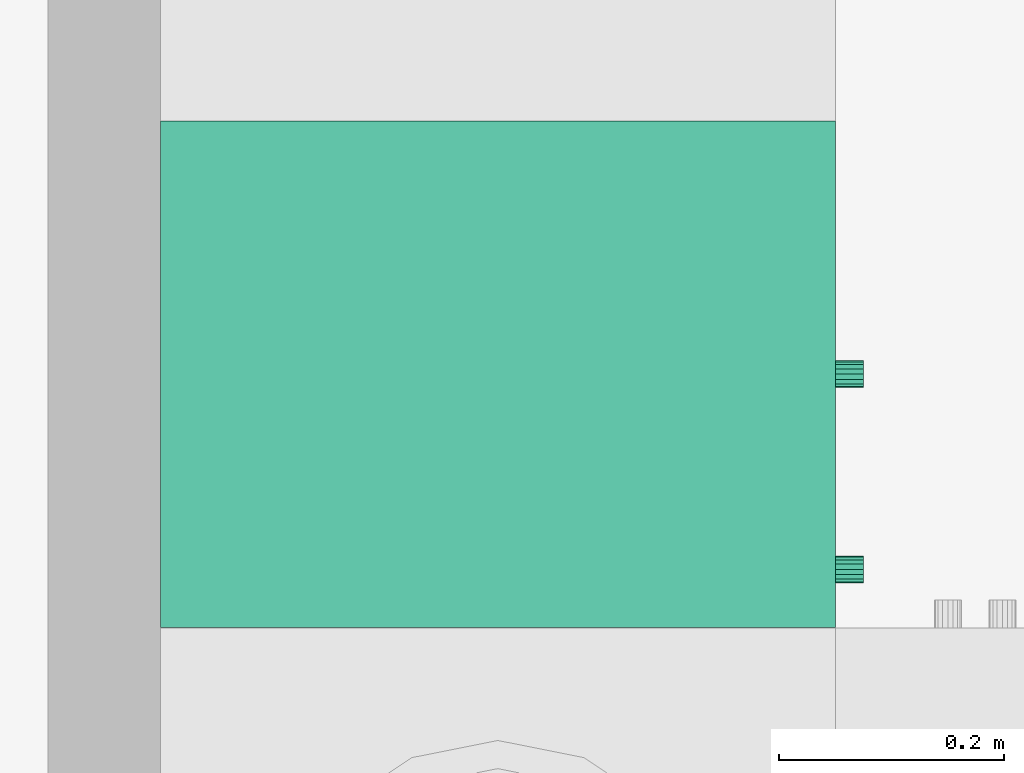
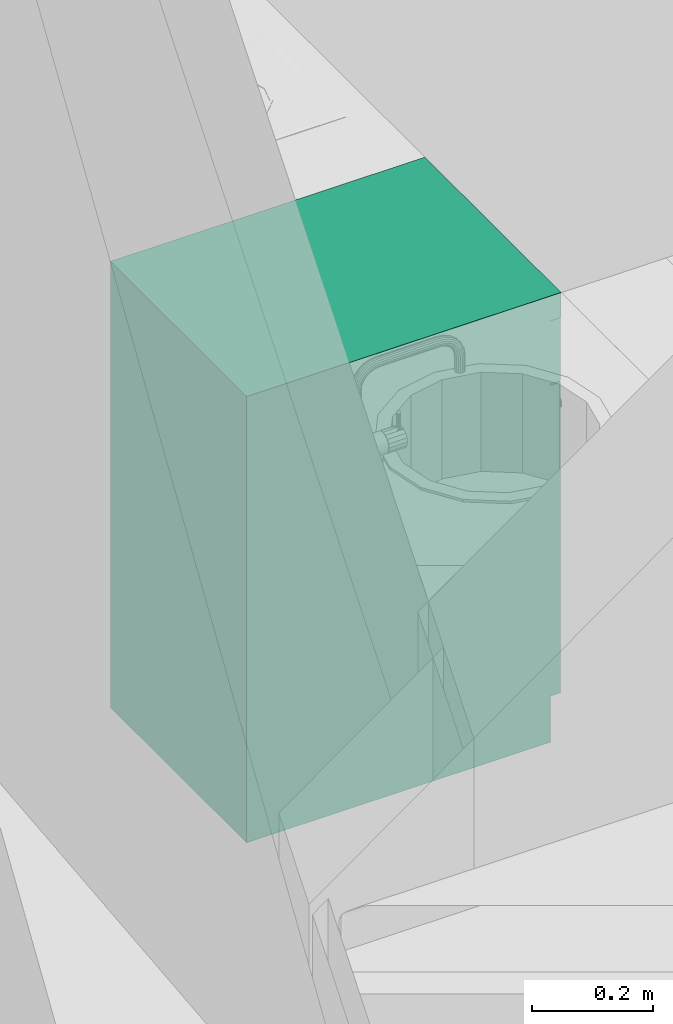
# One storey, part 49 of 165: 1 flow terminal.
"""IFC2X3 building model written with IfcOpenShell, lengths in millimetres."""

import ifcopenshell
import ifcopenshell.guid

model = None  # the IFC model being written
_history = None  # IfcOwnerHistory: only IFC2X3 demands one
_inside = {}  # id of a spatial element -> (the spatial element, [elements in it])
_under = {}  # id of a project, library or spatial element -> (it, [spatial elements below it])
_declared = {}  # id of a project -> (the project, [libraries it declares])
_typed = {}  # id of a type object -> (the type object, [elements of that type])
_made_of = {}  # id of a material, layer set ... -> (it, [elements and type objects made of it])


def new_model(schema):
    """Start an empty IFC model of exactly this schema.

    Asked for "IFC4X3", IfcOpenShell would pick the latest addendum, in which some entities
    have other attributes; the version numbers below select the first issue.
    IFC2X3 requires an IfcOwnerHistory on every rooted entity: one is made here for all.
    """
    global model, _history
    if schema == "IFC4X3":
        model = ifcopenshell.file(schema_version=(4, 3, 0, 0))
    else:
        model = ifcopenshell.file(schema=schema)
    _inside.clear()
    _under.clear()
    _declared.clear()
    _typed.clear()
    _made_of.clear()
    _history = None
    if model.schema == "IFC2X3":
        org = make("IfcOrganization", Name="unknown")
        user = make(
            "IfcPersonAndOrganization",
            ThePerson=make("IfcPerson", FamilyName="unknown"),
            TheOrganization=org,
        )
        app = make(
            "IfcApplication",
            ApplicationDeveloper=org,
            Version="unknown",
            ApplicationFullName="unknown",
            ApplicationIdentifier="unknown",
        )
        _history = make(
            "IfcOwnerHistory",
            OwningUser=user,
            OwningApplication=app,
            ChangeAction="ADDED",
            CreationDate=0,
        )
    return model


def make(cls, **values):
    """One entity of the class cls with the attributes given. An attribute that is None is left unset."""
    return model.create_entity(
        cls, **{name: value for name, value in values.items() if value is not None}
    )


def entity(cls, *values):
    """Any entity or typed value of the class cls, its attributes in the order of the schema. None: left unset."""
    e = model.create_entity(cls)
    for i, value in enumerate(values):
        if value is not None:
            e[i] = value
    return e


def rooted(cls, **values):
    """An entity with a GlobalId (a new one), such as an element, a storey or a relation."""
    return make(cls, GlobalId=ifcopenshell.guid.new(), OwnerHistory=_history, **values)


def si_unit(unit_type, name, prefix=None):
    """IfcSIUnit, for example si_unit("LENGTHUNIT", "METRE", prefix="MILLI")."""
    return make("IfcSIUnit", UnitType=unit_type, Prefix=prefix, Name=name)


def converted_unit(unit_type, name, factor, base, dimensions=None, offset=None):
    """IfcConversionBasedUnit, such as the inch: factor (a typed value) times the base unit."""
    return make(
        "IfcConversionBasedUnit"
        if offset is None
        else "IfcConversionBasedUnitWithOffset",
        ConversionOffset=offset,
        Dimensions=None
        if dimensions is None
        else entity("IfcDimensionalExponents", *dimensions),
        UnitType=unit_type,
        Name=name,
        ConversionFactor=make(
            "IfcMeasureWithUnit", ValueComponent=factor, UnitComponent=base
        ),
    )


def money_unit(currency):
    """IfcMonetaryUnit."""
    return make("IfcMonetaryUnit", Currency=currency)


def assignment(units):
    """IfcUnitAssignment: the units of a project."""
    return None if units is None else make("IfcUnitAssignment", Units=units)


def point(xyz):
    """IfcCartesianPoint."""
    return None if xyz is None else make("IfcCartesianPoint", Coordinates=xyz)


def direction(xyz):
    """IfcDirection."""
    return None if xyz is None else make("IfcDirection", DirectionRatios=xyz)


def frame(location, z_axis=None, x_axis=None):
    """IfcAxis2Placement3D, a coordinate frame: its origin and axes. An axis left out is left unset."""
    return make(
        "IfcAxis2Placement3D",
        Location=point(location),
        Axis=direction(z_axis),
        RefDirection=direction(x_axis),
    )


def origin_with_axes():
    """The frame at (0, 0, 0) with the z axis (0, 0, 1) and the x axis (1, 0, 0) written out."""
    return frame((0.0, 0.0, 0.0), z_axis=(0.0, 0.0, 1.0), x_axis=(1.0, 0.0, 0.0))


def place(relative_to, where):
    """IfcLocalPlacement: puts the frame where relative to a parent placement (None: the world)."""
    return make(
        "IfcLocalPlacement", PlacementRelTo=relative_to, RelativePlacement=where
    )


def context(
    kind, dimensions, precision=None, world=None, true_north=None, identifier=None
):
    """IfcGeometricRepresentationContext, for example the 3D "Model" context."""
    return make(
        "IfcGeometricRepresentationContext",
        ContextIdentifier=identifier,
        ContextType=kind,
        CoordinateSpaceDimension=dimensions,
        Precision=precision,
        WorldCoordinateSystem=world,
        TrueNorth=true_north,
    )


def subcontext(parent, identifier, kind, view, scale=None):
    """IfcGeometricRepresentationSubContext, for example "Body" below "Model"."""
    return make(
        "IfcGeometricRepresentationSubContext",
        ContextIdentifier=identifier,
        ContextType=kind,
        ParentContext=parent,
        TargetScale=scale,
        TargetView=view,
    )


def project(units=None, contexts=None):
    """IfcProject with its units and contexts."""
    return rooted(
        "IfcProject",
        Name="project",
        RepresentationContexts=contexts,
        UnitsInContext=assignment(units),
    )


def spatial(cls, under=None, at=None, **own):
    """A site, building, storey or space (cls), placed at a placement, below another one or the project."""
    s = rooted(cls, ObjectPlacement=at, **own)
    if under is not None:
        _under.setdefault(under.id(), (under, []))[1].append(s)
    return s


def faces_of(points, faces, orient=None, outer=None):
    """IfcFace entities. A face is a list of loops; a loop is a list of indices into points, from 0.

    orient and outer hold one flag for each loop. By default every Orientation is true, the
    first loop of a face is its IfcFaceOuterBound and the others are IfcFaceBound.
    """
    made = []
    for i, loops in enumerate(faces):
        bounds = []
        for j, loop in enumerate(loops):
            is_outer = j == 0 if outer is None else outer[i][j]
            bounds.append(
                make(
                    "IfcFaceOuterBound" if is_outer else "IfcFaceBound",
                    Bound=make("IfcPolyLoop", Polygon=[points[k] for k in loop]),
                    Orientation=True if orient is None else orient[i][j],
                )
            )
        made.append(make("IfcFace", Bounds=bounds))
    return made


def faceted_brep(points, faces, orient=None, outer=None, voids=None):
    """IfcFacetedBrep: a solid bounded by flat faces; with voids (closed shells), ...WithVoids."""
    shared = [point(p) for p in points]
    hull = make("IfcClosedShell", CfsFaces=faces_of(shared, faces, orient, outer))
    if voids is None:
        return make("IfcFacetedBrep", Outer=hull)
    return make(
        "IfcFacetedBrepWithVoids",
        Outer=hull,
        Voids=[
            make(cls, CfsFaces=faces_of(shared, fs, o, b)) for cls, fs, o, b in voids
        ],
    )


def shape(context_of_items, identifier, shape_type, items):
    """IfcShapeRepresentation: the items that make up one representation, for example the "Body"."""
    return make(
        "IfcShapeRepresentation",
        ContextOfItems=context_of_items,
        RepresentationIdentifier=identifier,
        RepresentationType=shape_type,
        Items=items,
    )


def material(Name=None, Category=None):
    """IfcMaterial."""
    return make("IfcMaterial", Name=Name, Category=Category)


def material_list(materials):
    """IfcMaterialList."""
    return make("IfcMaterialList", Materials=materials)


def made_of(thing, what):
    """Note that an element or type object is made of a material, layer set ...; save() writes the relation."""
    if what is not None:
        _made_of.setdefault(what.id(), (what, []))[1].append(thing)
    return thing


def type_object(cls, material=None, **own):
    """A type object (cls), such as IfcWallType, which elements share."""
    return made_of(rooted(cls, **own), material)


def element(
    cls,
    number,
    at=None,
    inside=None,
    cuts=None,
    type_object=None,
    material=None,
    context=None,
    identifier="Body",
    shape_type=None,
    held_by="IfcProductDefinitionShape",
    body=None,
    shapes=None,
    **own,
):
    """One element of the class cls, such as IfcWall. Its Tag is "e" and its number.

    at: its placement. inside: the storey or other place that contains it. cuts: it is an
    opening in that element (IfcRelVoidsElement). A single representation is given by context,
    identifier, shape_type and body (its items); several are given by shapes. held_by: the class
    of the entity that holds the representations. save() writes the other relations.
    """
    e = rooted(cls, Tag="e%d" % number, ObjectPlacement=at, **own)
    if body is not None:
        shapes = [shape(context, identifier, shape_type, body)]
    if shapes is not None:
        e.Representation = make(held_by, Representations=shapes)
    if inside is not None:
        _inside.setdefault(inside.id(), (inside, []))[1].append(e)
    if cuts is not None:
        rooted(
            "IfcRelVoidsElement", RelatingBuildingElement=cuts, RelatedOpeningElement=e
        )
    if type_object is not None:
        _typed.setdefault(type_object.id(), (type_object, []))[1].append(e)
    return made_of(e, material)


def aggregate(whole, parts):
    """IfcRelAggregates: a whole, such as a stair, and the parts it consists of."""
    return rooted("IfcRelAggregates", RelatingObject=whole, RelatedObjects=parts)


def save(model, path):
    """Write the relations noted so far, then the file.

    IfcRelAggregates (storeys below a building ...), IfcRelContainedInSpatialStructure (elements
    in a storey), IfcRelDefinesByType, IfcRelAssociatesMaterial and IfcRelDeclares: one each for
    every whole, place, type object, material and project.
    """
    for whole, parts in _under.values():
        aggregate(whole, parts)
    for where, things in _inside.values():
        rooted(
            "IfcRelContainedInSpatialStructure",
            RelatedElements=things,
            RelatingStructure=where,
        )
    for kind, things in _typed.values():
        rooted("IfcRelDefinesByType", RelatedObjects=things, RelatingType=kind)
    for what, things in _made_of.values():
        rooted("IfcRelAssociatesMaterial", RelatedObjects=things, RelatingMaterial=what)
    for by, libraries in _declared.values():
        rooted("IfcRelDeclares", RelatingContext=by, RelatedDefinitions=libraries)
    model.write(path)


model = new_model("IFC2X3")

# Units and contexts
model_context = context("Model", 3, precision=1e-05, world=origin_with_axes(), true_north=direction((0.0, 1.0)))
body_context = subcontext(model_context, "Body", "Model", "MODEL_VIEW")
ifc_project = project(units=[si_unit("LENGTHUNIT", "METRE", prefix="MILLI"), si_unit("AREAUNIT", "SQUARE_METRE"), si_unit("VOLUMEUNIT", "CUBIC_METRE"), converted_unit("PLANEANGLEUNIT", "DEGREE", entity("IfcPlaneAngleMeasure", 0.0174532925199), si_unit("PLANEANGLEUNIT", "RADIAN"), dimensions=[0, 0, 0, 0, 0, 0, 0]), si_unit("SOLIDANGLEUNIT", "STERADIAN"), money_unit("USD"), converted_unit("TIMEUNIT", "Year", entity("IfcTimeMeasure", 31556926.0), si_unit("TIMEUNIT", "SECOND"), dimensions=[0, 0, 0, 0, 0, 0, 0]), si_unit("MASSUNIT", "GRAM"), si_unit("THERMODYNAMICTEMPERATUREUNIT", "DEGREE_CELSIUS"), si_unit("LUMINOUSINTENSITYUNIT", "LUMEN")], contexts=[model_context])

# Site, building, storey
site_placement = place(None, origin_with_axes())
site = spatial("IfcSite", under=ifc_project, at=site_placement, Name="Site", CompositionType="ELEMENT")
building_placement = place(site_placement, origin_with_axes())
building = spatial("IfcBuilding", under=site, at=building_placement, Name="Building", CompositionType="ELEMENT")
storey_placement = place(building_placement, frame((0.0, 0.0, 6300.0), z_axis=(0.0, 0.0, 1.0), x_axis=(1.0, 0.0, 0.0)))
storey = spatial("IfcBuildingStorey", under=building, at=storey_placement, Name="4KORRUS", CompositionType="ELEMENT", Elevation=6300.0)

# Flow terminal
ifc_material = material(Name="Background")
ifc_material_list = material_list([ifc_material])
sanitary_terminal_type = type_object("IfcSanitaryTerminalType", Name="Cabinet Base Single Door 19", PredefinedType="SINK")
flow_terminal_placement = place(storey_placement, frame((-53008.4921105, -14687.3375674, 0.0), z_axis=(0.0, 0.0, 1.0), x_axis=(0.0, 1.0, 0.0)))
element("IfcFlowTerminal", 1, at=flow_terminal_placement, inside=storey, type_object=sanitary_terminal_type, material=ifc_material_list, Name="FU - 007", context=body_context, shape_type="Brep", body=[
    faceted_brep([(-20.0, 20.0, 710.0), (-20.0, 20.0, 730.0), (-430.0, 20.0, 730.0), (-430.0, 20.0, 710.0), (-20.0, 580.0, 710.0), (-20.0, 580.0, 730.0), (-430.0, 580.0, 730.0), (-430.0, 580.0, 710.0)], [[[0, 1, 2, 3]], [[4, 5, 1, 0]], [[1, 5, 6, 2]], [[3, 2, 6, 7]], [[0, 3, 7, 4]], [[7, 6, 5, 4]]]),
    faceted_brep([(0.0, 20.0, 0.0), (0.0, 20.0, 90.0), (-450.0, 20.0, 90.0), (-450.0, 20.0, 0.0), (0.0, 600.0, 0.0), (0.0, 600.0, 90.0), (-450.0, 600.0, 90.0), (-450.0, 600.0, 0.0)], [[[0, 1, 2, 3]], [[4, 5, 1, 0]], [[1, 5, 6, 2]], [[3, 2, 6, 7]], [[0, 3, 7, 4]], [[7, 6, 5, 4]]]),
    faceted_brep([(0.0, 20.0, 830.0), (0.0, 20.0, 850.0), (-20.0, 20.0, 850.0), (-20.0, 20.0, 830.0), (0.0, 600.0, 830.0), (0.0, 600.0, 850.0), (-20.0, 600.0, 850.0), (-430.0, 600.0, 850.0), (-450.0, 600.0, 850.0), (-450.0, 20.0, 850.0), (-430.0, 20.0, 850.0), (-430.0, 20.0, 830.0), (-450.0, 20.0, 830.0), (-450.0, 600.0, 830.0), (-430.0, 600.0, 830.0), (-20.0, 600.0, 830.0)], [[[0, 1, 2, 3]], [[4, 5, 1, 0]], [[1, 5, 6, 7, 8, 9, 10, 2]], [[3, 2, 10, 11]], [[0, 3, 11, 12, 13, 14, 15, 4]], [[15, 6, 5, 4]], [[14, 7, 6, 15]], [[13, 8, 7, 14]], [[12, 9, 8, 13]], [[11, 10, 9, 12]]]),
    faceted_brep([(0.0, 20.0, 90.0), (0.0, 20.0, 110.0), (-20.0, 20.0, 110.0), (-20.0, 20.0, 90.0), (0.0, 600.0, 90.0), (0.0, 600.0, 110.0), (-20.0, 600.0, 110.0), (-430.0, 600.0, 110.0), (-450.0, 600.0, 110.0), (-450.0, 20.0, 110.0), (-430.0, 20.0, 110.0), (-430.0, 20.0, 90.0), (-450.0, 20.0, 90.0), (-450.0, 600.0, 90.0), (-430.0, 600.0, 90.0), (-20.0, 600.0, 90.0)], [[[0, 1, 2, 3]], [[4, 5, 1, 0]], [[1, 5, 6, 7, 8, 9, 10, 2]], [[3, 2, 10, 11]], [[0, 3, 11, 12, 13, 14, 15, 4]], [[15, 6, 5, 4]], [[14, 7, 6, 15]], [[13, 8, 7, 14]], [[12, 9, 8, 13]], [[11, 10, 9, 12]]]),
    faceted_brep([(0.0, 20.0, 110.0), (0.0, 20.0, 830.0), (-20.0, 20.0, 830.0), (-20.0, 20.0, 110.0), (0.0, 600.0, 110.0), (0.0, 600.0, 830.0), (-450.0, 600.0, 830.0), (-450.0, 20.0, 830.0), (-430.0, 20.0, 830.0), (-430.0, 580.0, 830.0), (-20.0, 580.0, 830.0), (-20.0, 580.0, 110.0), (-430.0, 580.0, 110.0), (-430.0, 20.0, 110.0), (-450.0, 20.0, 110.0), (-450.0, 600.0, 110.0)], [[[0, 1, 2, 3]], [[4, 5, 1, 0]], [[1, 5, 6, 7, 8, 9, 10, 2]], [[3, 2, 10, 11]], [[0, 3, 11, 12, 13, 14, 15, 4]], [[15, 6, 5, 4]], [[14, 7, 6, 15]], [[13, 8, 7, 14]], [[12, 9, 8, 13]], [[11, 10, 9, 12]]]),
    faceted_brep([(-430.0, 20.0, 385.0), (-430.0, 20.0, 405.0), (-430.0, 580.0, 405.0), (-430.0, 580.0, 385.0), (-20.0, 20.0, 385.0), (-20.0, 20.0, 405.0), (-20.0, 580.0, 405.0), (-20.0, 580.0, 385.0)], [[[0, 1, 2, 3]], [[4, 5, 1, 0]], [[1, 5, 6, 2]], [[3, 2, 6, 7]], [[0, 3, 7, 4]], [[7, 6, 5, 4]]]),
    faceted_brep([(0.0, 0.0, 850.0), (0.0, 0.0, 900.0), (-450.0, 0.0, 900.0), (-450.0, 0.0, 850.0), (0.0, 600.0, 850.0), (0.0, 600.0, 900.0), (-450.0, 600.0, 900.0), (-450.0, 600.0, 850.0)], [[[0, 1, 2, 3]], [[4, 5, 1, 0]], [[1, 5, 6, 2]], [[3, 2, 6, 7]], [[0, 3, 7, 4]], [[7, 6, 5, 4]]]),
    faceted_brep([(-1.5, 20.0, 721.5), (-1.5, 0.0, 721.5), (-448.5, 0.0, 721.5), (-448.5, 20.0, 721.5), (-1.5, 20.0, 848.5), (-1.5, 0.0, 848.5), (-448.5, 0.0, 848.5), (-448.5, 20.0, 848.5)], [[[0, 1, 2, 3]], [[4, 5, 1, 0]], [[1, 5, 6, 2]], [[3, 2, 6, 7]], [[0, 3, 7, 4]], [[7, 6, 5, 4]]]),
    faceted_brep([(-220.408, 0.0, 773.913), (-225.0, 0.0, 773.0), (-229.592, 0.0, 773.913), (-233.485, 0.0, 776.515), (-236.087, 0.0, 780.408), (-237.0, 0.0, 785.0), (-236.087, 0.0, 789.592), (-233.485, 0.0, 793.485), (-229.592, 0.0, 796.087), (-225.0, 0.0, 797.0), (-220.408, 0.0, 796.087), (-216.515, 0.0, 793.485), (-213.913, 0.0, 789.592), (-213.0, 0.0, 785.0), (-213.913, 0.0, 780.408), (-216.515, 0.0, 776.515), (-220.408, -25.0, 773.913), (-225.0, -25.0, 773.0), (-229.592, -25.0, 773.913), (-233.485, -25.0, 776.515), (-236.087, -25.0, 780.408), (-237.0, -25.0, 785.0), (-236.087, -25.0, 789.592), (-233.485, -25.0, 793.485), (-229.592, -25.0, 796.087), (-225.0, -25.0, 797.0), (-220.408, -25.0, 796.087), (-216.515, -25.0, 793.485), (-213.913, -25.0, 789.592), (-213.0, -25.0, 785.0), (-213.913, -25.0, 780.408), (-216.515, -25.0, 776.515)], [[[0, 1, 2, 3, 4, 5, 6, 7, 8, 9, 10, 11, 12, 13, 14, 15]], [[0, 16, 17, 1]], [[1, 17, 18, 2]], [[2, 18, 19, 3]], [[3, 19, 20, 4]], [[4, 20, 21, 5]], [[5, 21, 22, 6]], [[6, 22, 23, 7]], [[7, 23, 24, 8]], [[8, 24, 25, 9]], [[9, 25, 26, 10]], [[10, 26, 27, 11]], [[11, 27, 28, 12]], [[12, 28, 29, 13]], [[13, 29, 30, 14]], [[14, 30, 31, 15]], [[15, 31, 16, 0]], [[16, 31, 30, 29, 28, 27, 26, 25, 24, 23, 22, 21, 20, 19, 18, 17]]]),
    faceted_brep([(-1.5, 20.0, 91.5), (-1.5, 0.0, 91.5), (-448.5, 0.0, 91.5), (-448.5, 20.0, 91.5), (-1.5, 20.0, 718.5), (-1.5, 0.0, 718.5), (-448.5, 0.0, 718.5), (-448.5, 20.0, 718.5)], [[[0, 1, 2, 3]], [[4, 5, 1, 0]], [[1, 5, 6, 2]], [[3, 2, 6, 7]], [[0, 3, 7, 4]], [[7, 6, 5, 4]]]),
    faceted_brep([(-409.587, 0.0, 636.908), (-410.5, 0.0, 641.5), (-409.587, 0.0, 646.092), (-406.985, 0.0, 649.985), (-403.092, 0.0, 652.587), (-398.5, 0.0, 653.5), (-393.908, 0.0, 652.587), (-390.015, 0.0, 649.985), (-387.413, 0.0, 646.092), (-386.5, 0.0, 641.5), (-387.413, 0.0, 636.908), (-390.015, 0.0, 633.015), (-393.908, 0.0, 630.413), (-398.5, 0.0, 629.5), (-403.092, 0.0, 630.413), (-406.985, 0.0, 633.015), (-409.587, -25.0, 636.908), (-410.5, -25.0, 641.5), (-409.587, -25.0, 646.092), (-406.985, -25.0, 649.985), (-403.092, -25.0, 652.587), (-398.5, -25.0, 653.5), (-393.908, -25.0, 652.587), (-390.015, -25.0, 649.985), (-387.413, -25.0, 646.092), (-386.5, -25.0, 641.5), (-387.413, -25.0, 636.908), (-390.015, -25.0, 633.015), (-393.908, -25.0, 630.413), (-398.5, -25.0, 629.5), (-403.092, -25.0, 630.413), (-406.985, -25.0, 633.015)], [[[0, 1, 2, 3, 4, 5, 6, 7, 8, 9, 10, 11, 12, 13, 14, 15]], [[0, 16, 17, 1]], [[1, 17, 18, 2]], [[2, 18, 19, 3]], [[3, 19, 20, 4]], [[4, 20, 21, 5]], [[5, 21, 22, 6]], [[6, 22, 23, 7]], [[7, 23, 24, 8]], [[8, 24, 25, 9]], [[9, 25, 26, 10]], [[10, 26, 27, 11]], [[11, 27, 28, 12]], [[12, 28, 29, 13]], [[13, 29, 30, 14]], [[14, 30, 31, 15]], [[15, 31, 16, 0]], [[16, 31, 30, 29, 28, 27, 26, 25, 24, 23, 22, 21, 20, 19, 18, 17]]]),
])

save(model, "model.ifc")
